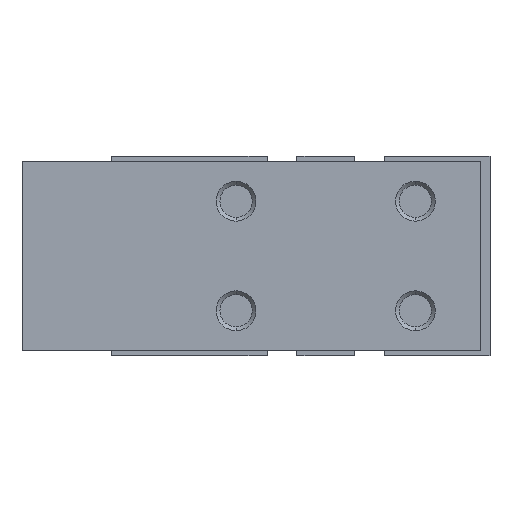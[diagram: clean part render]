
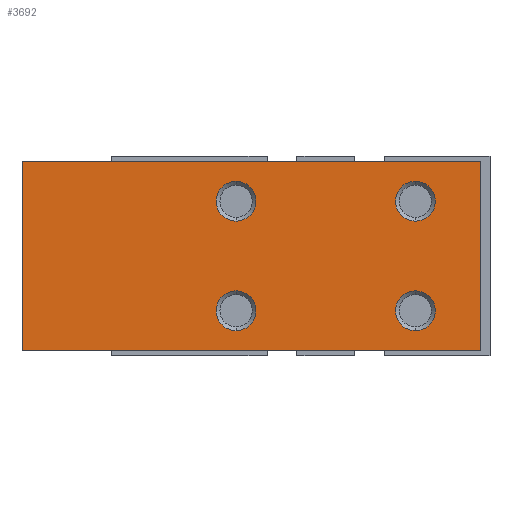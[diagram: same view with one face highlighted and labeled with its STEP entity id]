
A CAD part, left-side view. The second image highlights one B-rep face of the part: STEP entity #3692.
In plain terms, the highlighted planar face has unit normal (-1, 0, 0).
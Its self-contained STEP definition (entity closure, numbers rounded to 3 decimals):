
#114 = CARTESIAN_POINT ( 'NONE',  ( -11.5, 30.5, 9.5 ) ) ;
#301 = CARTESIAN_POINT ( 'NONE',  ( -11.5, 9., -5.5 ) ) ;
#395 = DIRECTION ( 'NONE',  ( -1., 0., 0. ) ) ;
#431 = DIRECTION ( 'NONE',  ( -1., 0., 0. ) ) ;
#524 = CARTESIAN_POINT ( 'NONE',  ( -11.5, 9., -7.5 ) ) ;
#644 = DIRECTION ( 'NONE',  ( 0., 0., 1. ) ) ;
#666 = CIRCLE ( 'NONE', #4046, 2. ) ;
#707 = CIRCLE ( 'NONE', #4184, 2. ) ;
#719 = CARTESIAN_POINT ( 'NONE',  ( -11.5, -15.5, 9.5 ) ) ;
#815 = CARTESIAN_POINT ( 'NONE',  ( -11.5, -9., 5.5 ) ) ;
#843 = ORIENTED_EDGE ( 'NONE', *, *, #4336, .F. ) ;
#859 = EDGE_CURVE ( 'NONE', #5419, #1889, #5232, .T. ) ;
#904 = CARTESIAN_POINT ( 'NONE',  ( -11.5, -15.5, -9.5 ) ) ;
#944 = ORIENTED_EDGE ( 'NONE', *, *, #5046, .F. ) ;
#979 = ORIENTED_EDGE ( 'NONE', *, *, #1116, .T. ) ;
#1007 = CARTESIAN_POINT ( 'NONE',  ( -11.5, -9., -3.5 ) ) ;
#1045 = DIRECTION ( 'NONE',  ( 0., 0., 1. ) ) ;
#1075 = DIRECTION ( 'NONE',  ( -1., 0., 0. ) ) ;
#1116 = EDGE_CURVE ( 'NONE', #5135, #3559, #5424, .T. ) ;
#1421 = EDGE_CURVE ( 'NONE', #3559, #5895, #1972, .T. ) ;
#1453 = ORIENTED_EDGE ( 'NONE', *, *, #2110, .F. ) ;
#1467 = CARTESIAN_POINT ( 'NONE',  ( -11.5, -9., -5.5 ) ) ;
#1484 = DIRECTION ( 'NONE',  ( -1., 0., 0. ) ) ;
#1499 = VERTEX_POINT ( 'NONE', #5212 ) ;
#1500 = DIRECTION ( 'NONE',  ( 0., 1., 0. ) ) ;
#1547 = DIRECTION ( 'NONE',  ( 0., 0., -1. ) ) ;
#1564 = VECTOR ( 'NONE', #1547, 1000. ) ;
#1565 = CIRCLE ( 'NONE', #4571, 2. ) ;
#1679 = EDGE_LOOP ( 'NONE', ( #3357, #5430 ) ) ;
#1742 = VECTOR ( 'NONE', #2423, 1000. ) ;
#1844 = CARTESIAN_POINT ( 'NONE',  ( -11.5, 9., 3.5 ) ) ;
#1888 = DIRECTION ( 'NONE',  ( -1., 0., 0. ) ) ;
#1889 = VERTEX_POINT ( 'NONE', #2347 ) ;
#1895 = CARTESIAN_POINT ( 'NONE',  ( -11.5, -9., 5.5 ) ) ;
#1972 = LINE ( 'NONE', #1995, #1742 ) ;
#1991 = EDGE_LOOP ( 'NONE', ( #4681, #5666 ) ) ;
#1995 = CARTESIAN_POINT ( 'NONE',  ( -11.5, 30.5, -9.5 ) ) ;
#2033 = DIRECTION ( 'NONE',  ( -1., 0., 0. ) ) ;
#2110 = EDGE_CURVE ( 'NONE', #5135, #4701, #3917, .T. ) ;
#2114 = EDGE_LOOP ( 'NONE', ( #5098, #944 ) ) ;
#2149 = EDGE_CURVE ( 'NONE', #2744, #2503, #707, .T. ) ;
#2225 = CARTESIAN_POINT ( 'NONE',  ( -11.5, 30.5, -9.5 ) ) ;
#2230 = EDGE_LOOP ( 'NONE', ( #5186, #5757, #1453, #979 ) ) ;
#2285 = VERTEX_POINT ( 'NONE', #5553 ) ;
#2347 = CARTESIAN_POINT ( 'NONE',  ( -11.5, -9., 7.5 ) ) ;
#2356 = CIRCLE ( 'NONE', #5260, 2. ) ;
#2404 = FACE_BOUND ( 'NONE', #1991, .T. ) ;
#2423 = DIRECTION ( 'NONE',  ( 0., -1., 0. ) ) ;
#2429 = DIRECTION ( 'NONE',  ( -1., 0., 0. ) ) ;
#2440 = EDGE_CURVE ( 'NONE', #2503, #2744, #1565, .T. ) ;
#2452 = DIRECTION ( 'NONE',  ( -1., 0., 0. ) ) ;
#2503 = VERTEX_POINT ( 'NONE', #3508 ) ;
#2542 = LINE ( 'NONE', #3449, #1564 ) ;
#2744 = VERTEX_POINT ( 'NONE', #1007 ) ;
#2823 = EDGE_CURVE ( 'NONE', #1499, #4598, #666, .T. ) ;
#2845 = CIRCLE ( 'NONE', #4392, 2. ) ;
#2863 = FACE_BOUND ( 'NONE', #2114, .T. ) ;
#2883 = DIRECTION ( 'NONE',  ( 1., 0., 0. ) ) ;
#2902 = CARTESIAN_POINT ( 'NONE',  ( -11.5, 9., 5.5 ) ) ;
#3112 = DIRECTION ( 'NONE',  ( 0., 0., 1. ) ) ;
#3120 = CARTESIAN_POINT ( 'NONE',  ( -11.5, 30.5, 9.5 ) ) ;
#3321 = VECTOR ( 'NONE', #4912, 1000. ) ;
#3357 = ORIENTED_EDGE ( 'NONE', *, *, #2823, .F. ) ;
#3368 = FACE_BOUND ( 'NONE', #4511, .T. ) ;
#3449 = CARTESIAN_POINT ( 'NONE',  ( -11.5, -15.5, 9.5 ) ) ;
#3508 = CARTESIAN_POINT ( 'NONE',  ( -11.5, -9., -7.5 ) ) ;
#3559 = VERTEX_POINT ( 'NONE', #2225 ) ;
#3692 = ADVANCED_FACE ( 'NONE', ( #3772, #2863, #3368, #2404, #4251 ), #5194, .F. ) ;
#3743 = DIRECTION ( 'NONE',  ( 0., 0., 1. ) ) ;
#3772 = FACE_OUTER_BOUND ( 'NONE', #2230, .T. ) ;
#3783 = EDGE_CURVE ( 'NONE', #4701, #5895, #2542, .T. ) ;
#3803 = DIRECTION ( 'NONE',  ( 0., 0., 1. ) ) ;
#3808 = AXIS2_PLACEMENT_3D ( 'NONE', #5217, #1075, #3803 ) ;
#3878 = DIRECTION ( 'NONE',  ( 0., 0., 1. ) ) ;
#3904 = AXIS2_PLACEMENT_3D ( 'NONE', #815, #395, #4995 ) ;
#3917 = LINE ( 'NONE', #5755, #3321 ) ;
#3946 = CARTESIAN_POINT ( 'NONE',  ( -11.5, -9., 3.5 ) ) ;
#4046 = AXIS2_PLACEMENT_3D ( 'NONE', #5627, #1484, #4724 ) ;
#4184 = AXIS2_PLACEMENT_3D ( 'NONE', #4854, #2033, #3878 ) ;
#4232 = EDGE_CURVE ( 'NONE', #4598, #1499, #2356, .T. ) ;
#4251 = FACE_BOUND ( 'NONE', #1679, .T. ) ;
#4336 = EDGE_CURVE ( 'NONE', #1889, #5419, #5452, .T. ) ;
#4337 = EDGE_CURVE ( 'NONE', #2285, #4505, #2845, .T. ) ;
#4392 = AXIS2_PLACEMENT_3D ( 'NONE', #301, #431, #3112 ) ;
#4484 = DIRECTION ( 'NONE',  ( 0., 0., -1. ) ) ;
#4505 = VERTEX_POINT ( 'NONE', #524 ) ;
#4511 = EDGE_LOOP ( 'NONE', ( #843, #4983 ) ) ;
#4571 = AXIS2_PLACEMENT_3D ( 'NONE', #1467, #1888, #3743 ) ;
#4598 = VERTEX_POINT ( 'NONE', #1844 ) ;
#4679 = VECTOR ( 'NONE', #4484, 1000. ) ;
#4681 = ORIENTED_EDGE ( 'NONE', *, *, #2149, .F. ) ;
#4701 = VERTEX_POINT ( 'NONE', #719 ) ;
#4724 = DIRECTION ( 'NONE',  ( 0., 0., 1. ) ) ;
#4854 = CARTESIAN_POINT ( 'NONE',  ( -11.5, -9., -5.5 ) ) ;
#4873 = CIRCLE ( 'NONE', #3808, 2. ) ;
#4912 = DIRECTION ( 'NONE',  ( 0., -1., 0. ) ) ;
#4983 = ORIENTED_EDGE ( 'NONE', *, *, #859, .F. ) ;
#4995 = DIRECTION ( 'NONE',  ( 0., 0., 1. ) ) ;
#5046 = EDGE_CURVE ( 'NONE', #4505, #2285, #4873, .T. ) ;
#5098 = ORIENTED_EDGE ( 'NONE', *, *, #4337, .F. ) ;
#5135 = VERTEX_POINT ( 'NONE', #5754 ) ;
#5166 = AXIS2_PLACEMENT_3D ( 'NONE', #114, #2883, #1500 ) ;
#5186 = ORIENTED_EDGE ( 'NONE', *, *, #1421, .T. ) ;
#5194 = PLANE ( 'NONE',  #5166 ) ;
#5212 = CARTESIAN_POINT ( 'NONE',  ( -11.5, 9., 7.5 ) ) ;
#5217 = CARTESIAN_POINT ( 'NONE',  ( -11.5, 9., -5.5 ) ) ;
#5232 = CIRCLE ( 'NONE', #5525, 2. ) ;
#5260 = AXIS2_PLACEMENT_3D ( 'NONE', #2902, #2452, #644 ) ;
#5419 = VERTEX_POINT ( 'NONE', #3946 ) ;
#5424 = LINE ( 'NONE', #3120, #4679 ) ;
#5430 = ORIENTED_EDGE ( 'NONE', *, *, #4232, .F. ) ;
#5452 = CIRCLE ( 'NONE', #3904, 2. ) ;
#5525 = AXIS2_PLACEMENT_3D ( 'NONE', #1895, #2429, #1045 ) ;
#5553 = CARTESIAN_POINT ( 'NONE',  ( -11.5, 9., -3.5 ) ) ;
#5627 = CARTESIAN_POINT ( 'NONE',  ( -11.5, 9., 5.5 ) ) ;
#5666 = ORIENTED_EDGE ( 'NONE', *, *, #2440, .F. ) ;
#5754 = CARTESIAN_POINT ( 'NONE',  ( -11.5, 30.5, 9.5 ) ) ;
#5755 = CARTESIAN_POINT ( 'NONE',  ( -11.5, 30.5, 9.5 ) ) ;
#5757 = ORIENTED_EDGE ( 'NONE', *, *, #3783, .F. ) ;
#5895 = VERTEX_POINT ( 'NONE', #904 ) ;
